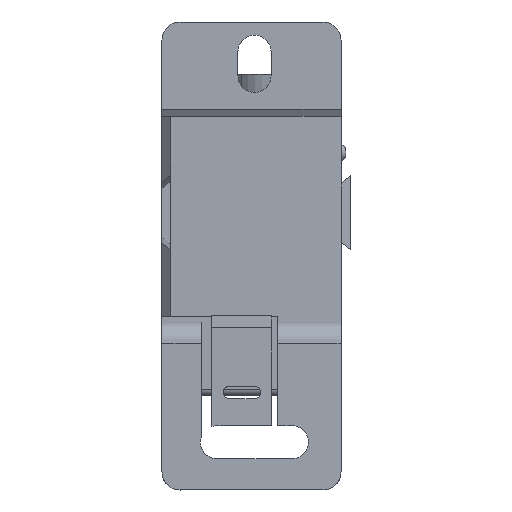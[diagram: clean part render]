
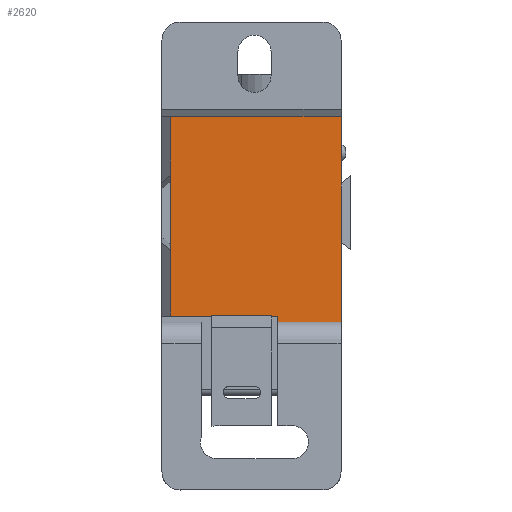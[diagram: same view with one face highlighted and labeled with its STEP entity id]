
A CAD part, top view. The second image highlights one B-rep face of the part: STEP entity #2620.
In plain terms, the highlighted planar face has unit normal (0, 0, 1).
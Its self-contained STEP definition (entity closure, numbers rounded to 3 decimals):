
#2620=ADVANCED_FACE('',(#3247),#3038,.F.);
#3038=PLANE('',#10193);
#3247=FACE_OUTER_BOUND('',#3637,.T.);
#3637=EDGE_LOOP('',(#4173,#4174,#4175,#4176,#4177,#4178,#4179,#4180,#4181,
#4182));
#4173=ORIENTED_EDGE('',*,*,#7489,.F.);
#4174=ORIENTED_EDGE('',*,*,#7500,.F.);
#4175=ORIENTED_EDGE('',*,*,#7501,.T.);
#4176=ORIENTED_EDGE('',*,*,#7502,.T.);
#4177=ORIENTED_EDGE('',*,*,#7503,.T.);
#4178=ORIENTED_EDGE('',*,*,#7504,.F.);
#4179=ORIENTED_EDGE('',*,*,#7505,.F.);
#4180=ORIENTED_EDGE('',*,*,#7506,.T.);
#4181=ORIENTED_EDGE('',*,*,#7459,.F.);
#4182=ORIENTED_EDGE('',*,*,#7452,.T.);
#6625=VERTEX_POINT('',#13274);
#6626=VERTEX_POINT('',#13276);
#6629=VERTEX_POINT('',#13290);
#6658=VERTEX_POINT('',#13348);
#6669=VERTEX_POINT('',#13372);
#6670=VERTEX_POINT('',#13374);
#6671=VERTEX_POINT('',#13376);
#6672=VERTEX_POINT('',#13378);
#6673=VERTEX_POINT('',#13380);
#6674=VERTEX_POINT('',#13382);
#7452=EDGE_CURVE('',#6626,#6625,#8708,.T.);
#7459=EDGE_CURVE('',#6626,#6629,#8715,.T.);
#7489=EDGE_CURVE('',#6658,#6625,#8738,.T.);
#7500=EDGE_CURVE('',#6669,#6658,#8743,.T.);
#7501=EDGE_CURVE('',#6669,#6670,#8744,.T.);
#7502=EDGE_CURVE('',#6670,#6671,#8745,.T.);
#7503=EDGE_CURVE('',#6671,#6672,#8746,.T.);
#7504=EDGE_CURVE('',#6673,#6672,#8747,.T.);
#7505=EDGE_CURVE('',#6674,#6673,#8748,.T.);
#7506=EDGE_CURVE('',#6674,#6629,#8749,.T.);
#8708=LINE('',#13275,#9443);
#8715=LINE('',#13289,#9450);
#8738=LINE('',#13349,#9473);
#8743=LINE('',#13371,#9478);
#8744=LINE('',#13373,#9479);
#8745=LINE('',#13375,#9480);
#8746=LINE('',#13377,#9481);
#8747=LINE('',#13379,#9482);
#8748=LINE('',#13381,#9483);
#8749=LINE('',#13383,#9484);
#9443=VECTOR('',#10967,1.);
#9450=VECTOR('',#10982,1.);
#9473=VECTOR('',#11019,1.);
#9478=VECTOR('',#11038,1.);
#9479=VECTOR('',#11039,1.);
#9480=VECTOR('',#11040,1.);
#9481=VECTOR('',#11041,1.);
#9482=VECTOR('',#11042,1.);
#9483=VECTOR('',#11043,1.);
#9484=VECTOR('',#11044,1.);
#10193=AXIS2_PLACEMENT_3D('',#13384,#11045,#11046);
#10967=DIRECTION('',(0.,1.,0.));
#10982=DIRECTION('',(0.,-1.,0.));
#11019=DIRECTION('',(0.,-1.,0.));
#11038=DIRECTION('',(1.,0.,0.));
#11039=DIRECTION('',(0.,-1.,0.));
#11040=DIRECTION('',(0.,-1.,0.));
#11041=DIRECTION('',(0.,-1.,0.));
#11042=DIRECTION('',(-1.,0.,0.));
#11043=DIRECTION('',(0.,1.,0.));
#11044=DIRECTION('',(1.,0.,0.));
#11045=DIRECTION('',(0.,0.,-1.));
#11046=DIRECTION('',(0.,1.,0.));
#13274=CARTESIAN_POINT('',(14.9,-26.787,-6.25));
#13275=CARTESIAN_POINT('',(14.9,-36.687,-6.25));
#13276=CARTESIAN_POINT('',(14.9,-36.687,-6.25));
#13289=CARTESIAN_POINT('',(14.9,-36.687,-6.25));
#13290=CARTESIAN_POINT('',(14.9,-49.937,-6.25));
#13348=CARTESIAN_POINT('',(14.9,-14.537,-6.25));
#13349=CARTESIAN_POINT('',(14.9,-14.537,-6.25));
#13371=CARTESIAN_POINT('',(-13.4,-14.537,-6.25));
#13372=CARTESIAN_POINT('',(-13.4,-14.537,-6.25));
#13373=CARTESIAN_POINT('',(-13.4,-14.537,-6.25));
#13374=CARTESIAN_POINT('',(-13.4,-25.486,-6.25));
#13375=CARTESIAN_POINT('',(-13.4,-25.486,-6.25));
#13376=CARTESIAN_POINT('',(-13.4,-37.987,-6.25));
#13377=CARTESIAN_POINT('',(-13.4,-37.987,-6.25));
#13378=CARTESIAN_POINT('',(-13.4,-48.937,-6.25));
#13379=CARTESIAN_POINT('',(4.4,-48.937,-6.25));
#13380=CARTESIAN_POINT('',(4.4,-48.937,-6.25));
#13381=CARTESIAN_POINT('',(4.4,-49.937,-6.25));
#13382=CARTESIAN_POINT('',(4.4,-49.937,-6.25));
#13383=CARTESIAN_POINT('',(4.4,-49.937,-6.25));
#13384=CARTESIAN_POINT('',(14.9,-14.537,-6.25));
